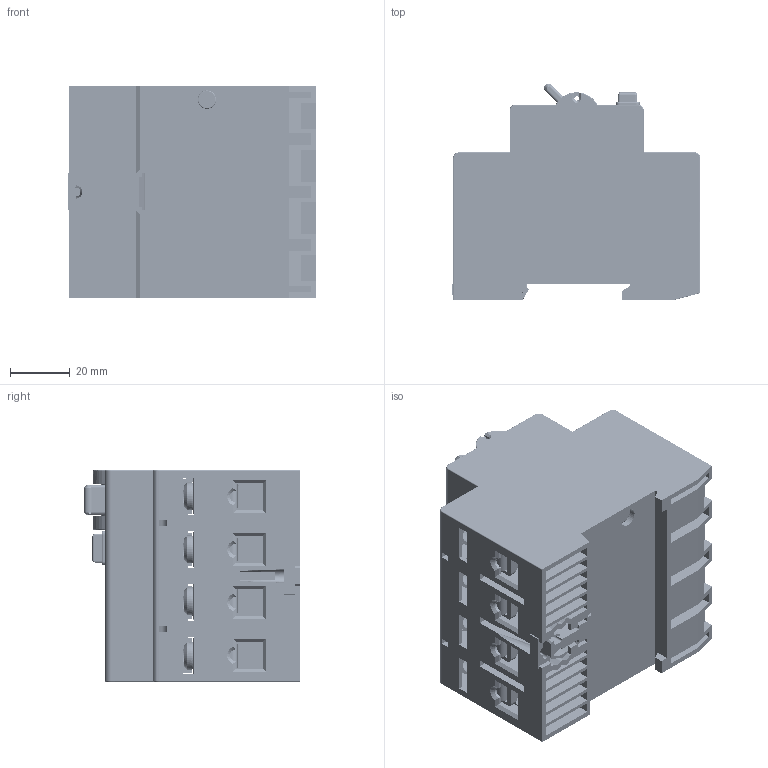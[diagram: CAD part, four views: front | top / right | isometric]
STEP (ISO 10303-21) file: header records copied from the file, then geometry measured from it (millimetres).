
FILE_DESCRIPTION (( 'STEP AP214' ), '1' );
FILE_NAME ('OptiDin DM63 4P 25-63À.STEP', '2022-11-18T10:40:29', ( '' ), ( '' ), 'SwSTEP 2.0', 'SolidWorks 2018', '' );
FILE_SCHEMA (( 'AUTOMOTIVE_DESIGN' ));
Products named in the file (1): OptiDin DM63 4P 25-63À
Bounding box: 83.4 x 72.53 x 71 mm (x, y, z)
Volume: 89013 mm3; surface area: 121916.3 mm2
Topology: 4 solids, 23 shells, 6277 faces, 17441 edges, 11150 vertices
Faces by surface type: plane 4092, cylinder 1623, bspline 355, torus 113, cone 72, sphere 22
Entity records: 262531 total; most frequent: CARTESIAN_POINT 105241, ORIENTED_EDGE 34830, DIRECTION 29610, EDGE_CURVE 17415, LINE 12220, VECTOR 12220, VERTEX_POINT 11150, AXIS2_PLACEMENT_3D 8695
